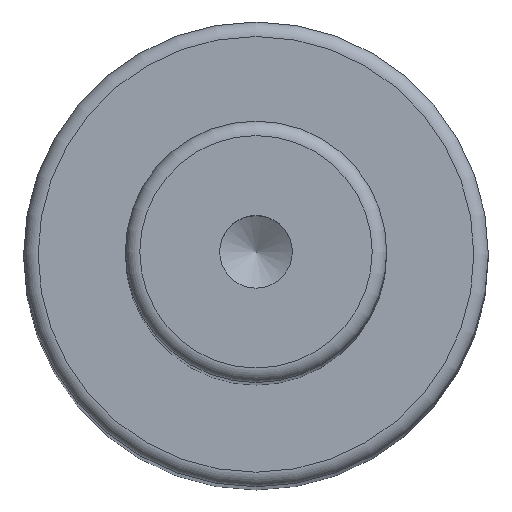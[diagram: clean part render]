
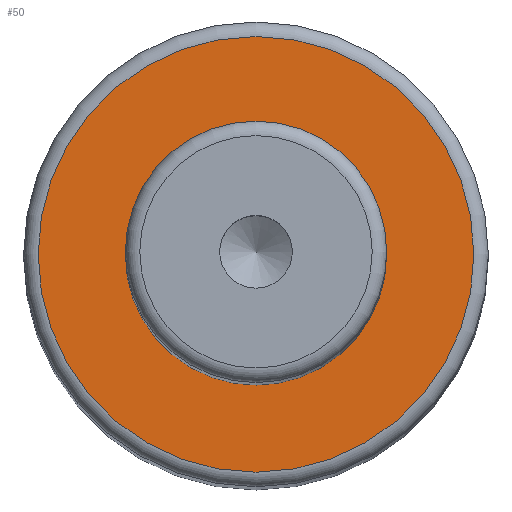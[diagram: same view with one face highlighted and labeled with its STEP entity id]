
A CAD part, top view. The second image highlights one B-rep face of the part: STEP entity #50.
In plain terms, the highlighted planar face has unit normal (0, 0, 1).
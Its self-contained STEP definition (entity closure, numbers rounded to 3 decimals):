
#40=PLANE('',#179);
#50=ADVANCED_FACE('',(#72,#73),#40,.F.);
#72=FACE_BOUND('',#96,.T.);
#73=FACE_BOUND('',#97,.T.);
#96=EDGE_LOOP('',(#118));
#97=EDGE_LOOP('',(#119));
#118=ORIENTED_EDGE('',*,*,#149,.F.);
#119=ORIENTED_EDGE('',*,*,#148,.T.);
#135=VERTEX_POINT('',#256);
#136=VERTEX_POINT('',#259);
#148=EDGE_CURVE('',#135,#135,#159,.T.);
#149=EDGE_CURVE('',#136,#136,#160,.T.);
#159=CIRCLE('',#176,9.);
#160=CIRCLE('',#178,15.);
#176=AXIS2_PLACEMENT_3D('',#255,#213,#214);
#178=AXIS2_PLACEMENT_3D('',#258,#217,#218);
#179=AXIS2_PLACEMENT_3D('',#260,#219,#220);
#213=DIRECTION('',(0.,0.,-1.));
#214=DIRECTION('',(-1.,0.,0.));
#217=DIRECTION('',(0.,0.,-1.));
#218=DIRECTION('',(-1.,0.,0.));
#219=DIRECTION('',(0.,0.,-1.));
#220=DIRECTION('',(-1.,0.,0.));
#255=CARTESIAN_POINT('',(0.,0.,129.));
#256=CARTESIAN_POINT('',(-9.,0.,129.));
#258=CARTESIAN_POINT('',(0.,0.,129.));
#259=CARTESIAN_POINT('',(-15.,0.,129.));
#260=CARTESIAN_POINT('',(9.,0.,129.));
